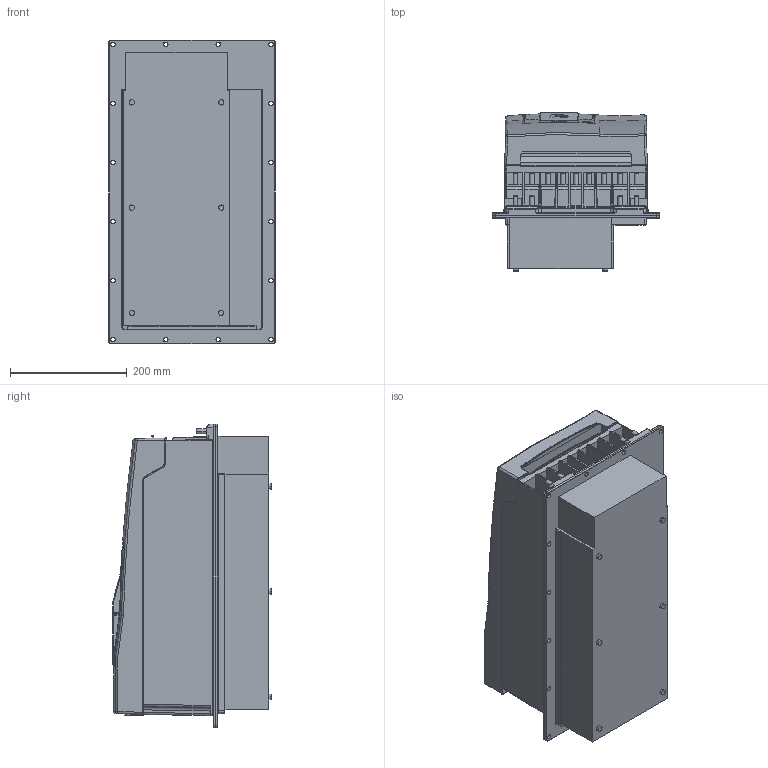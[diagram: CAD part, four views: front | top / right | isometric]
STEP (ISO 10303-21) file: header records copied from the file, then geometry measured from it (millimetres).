
FILE_DESCRIPTION (( 'STEP AP214' ), '1' );
FILE_NAME ('F6-6TR5-A010.STEP', '2020-12-09T11:11:48', ( '' ), ( '' ), 'SwSTEP 2.0', 'SolidWorks 2019', '' );
FILE_SCHEMA (( 'AUTOMOTIVE_DESIGN' ));
Length unit declared in the file: millimetre
Products named in the file (11): 10059764_000_Blindabdeckung (Kundenmodell); 10061794_000; 10061939_000; 10044643_000_Kundenmodell; 10059765_000; F6-6TR5-A010; 10059761_000; 10060787_000; 10027052_000_Geh„usebaugruppe F6-6 (Kundenmodell); 10046128_000_Basis Leistungsteil F6-6 TR5 (Kundenmodell); 10061793_000_Deckelbaugruppe F6-6 (Kundenmodell)
Assembly tree (10 placements, depth 4):
  F6-6TR5-A010
    10046128_000_Basis Leistungsteil F6-6 TR5 (Kundenmodell)
      10061939_000
    10027052_000_Geh„usebaugruppe F6-6 (Kundenmodell)
      10061793_000_Deckelbaugruppe F6-6 (Kundenmodell)
        10061794_000
      10060787_000
    10044643_000_Kundenmodell
      10059764_000_Blindabdeckung (Kundenmodell)
        10059765_000
      10059761_000
Bounding box: 285 x 270.9 x 520 mm (x, y, z)
Volume: 25671796.1 mm3; surface area: 1331884.5 mm2
Topology: 12 solids, 20 shells, 3066 faces, 7633 edges, 4540 vertices
Faces by surface type: cylinder 1076, plane 995, bspline 624, torus 188, sphere 107, cone 76
Entity records: 102738 total; most frequent: CARTESIAN_POINT 35037, ORIENTED_EDGE 14954, DIRECTION 13137, EDGE_CURVE 7477, AXIS2_PLACEMENT_3D 4775, VERTEX_POINT 4538, VECTOR 3587, LINE 3587
